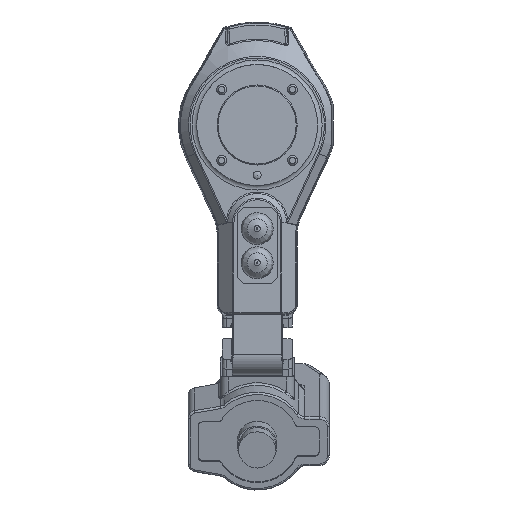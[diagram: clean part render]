
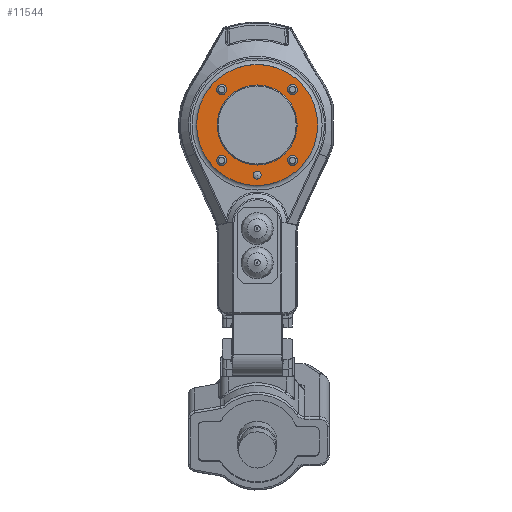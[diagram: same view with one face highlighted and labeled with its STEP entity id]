
A CAD part, top view. The second image highlights one B-rep face of the part: STEP entity #11544.
In plain terms, the highlighted planar face has unit normal (0, 0, 1).
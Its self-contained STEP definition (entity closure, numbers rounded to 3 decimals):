
#11462=CARTESIAN_POINT('',(0.0,26.5,0.));
#11463=DIRECTION('',(0.0,0.0,-1.0));
#11464=DIRECTION('',(-1.0,0.0,0.0));
#11465=AXIS2_PLACEMENT_3D('',#11462,#11463,#11464);
#11466=PLANE('',#11465);
#11467=CARTESIAN_POINT('',(30.235,0.,0.));
#11468=VERTEX_POINT('',#11467);
#11469=CARTESIAN_POINT('',(0.0,0.0,0.));
#11470=DIRECTION('',(0.0,0.0,-1.0));
#11471=DIRECTION('',(-1.0,0.0,0.0));
#11472=AXIS2_PLACEMENT_3D('',#11469,#11470,#11471);
#11473=CIRCLE('',#11472,30.235);
#11474=EDGE_CURVE('',#11468,#11468,#11473,.T.);
#11475=ORIENTED_EDGE('',*,*,#11474,.F.);
#11476=EDGE_LOOP('',(#11475));
#11477=FACE_OUTER_BOUND('',#11476,.T.);
#11478=CARTESIAN_POINT('',(0.0,20.0,0.));
#11479=VERTEX_POINT('',#11478);
#11480=CARTESIAN_POINT('',(0.0,0.0,0.));
#11481=DIRECTION('',(0.0,0.0,1.0));
#11482=DIRECTION('',(0.0,1.0,0.0));
#11483=AXIS2_PLACEMENT_3D('',#11480,#11481,#11482);
#11484=CIRCLE('',#11483,20.0);
#11485=EDGE_CURVE('',#11479,#11479,#11484,.T.);
#11486=ORIENTED_EDGE('',*,*,#11485,.F.);
#11487=EDGE_LOOP('',(#11486));
#11488=FACE_BOUND('',#11487,.T.);
#11489=CARTESIAN_POINT('',(1.341,-26.484,0.));
#11490=VERTEX_POINT('',#11489);
#11491=CARTESIAN_POINT('',(0.0,-25.0,0.));
#11492=DIRECTION('',(0.0,0.0,1.0));
#11493=DIRECTION('',(-0.671,0.742,0.0));
#11494=AXIS2_PLACEMENT_3D('',#11491,#11492,#11493);
#11495=CIRCLE('',#11494,2.0);
#11496=EDGE_CURVE('',#11490,#11490,#11495,.T.);
#11497=ORIENTED_EDGE('',*,*,#11496,.F.);
#11498=EDGE_LOOP('',(#11497));
#11499=FACE_BOUND('',#11498,.T.);
#11500=CARTESIAN_POINT('',(18.027,15.202,0.));
#11501=VERTEX_POINT('',#11500);
#11502=CARTESIAN_POINT('',(17.678,17.678,0.));
#11503=DIRECTION('',(0.,0.,1.0));
#11504=DIRECTION('',(-0.14,0.99,0.));
#11505=AXIS2_PLACEMENT_3D('',#11502,#11503,#11504);
#11506=CIRCLE('',#11505,2.5);
#11507=EDGE_CURVE('',#11501,#11501,#11506,.T.);
#11508=ORIENTED_EDGE('',*,*,#11507,.F.);
#11509=EDGE_LOOP('',(#11508));
#11510=FACE_BOUND('',#11509,.T.);
#11511=CARTESIAN_POINT('',(15.202,-18.027,0.));
#11512=VERTEX_POINT('',#11511);
#11513=CARTESIAN_POINT('',(17.678,-17.678,0.));
#11514=DIRECTION('',(0.,0.,1.0));
#11515=DIRECTION('',(0.99,0.14,0.));
#11516=AXIS2_PLACEMENT_3D('',#11513,#11514,#11515);
#11517=CIRCLE('',#11516,2.5);
#11518=EDGE_CURVE('',#11512,#11512,#11517,.T.);
#11519=ORIENTED_EDGE('',*,*,#11518,.F.);
#11520=EDGE_LOOP('',(#11519));
#11521=FACE_BOUND('',#11520,.T.);
#11522=CARTESIAN_POINT('',(-18.027,-15.202,0.));
#11523=VERTEX_POINT('',#11522);
#11524=CARTESIAN_POINT('',(-17.678,-17.678,0.));
#11525=DIRECTION('',(0.,0.,1.0));
#11526=DIRECTION('',(0.14,-0.99,0.));
#11527=AXIS2_PLACEMENT_3D('',#11524,#11525,#11526);
#11528=CIRCLE('',#11527,2.5);
#11529=EDGE_CURVE('',#11523,#11523,#11528,.T.);
#11530=ORIENTED_EDGE('',*,*,#11529,.F.);
#11531=EDGE_LOOP('',(#11530));
#11532=FACE_BOUND('',#11531,.T.);
#11533=CARTESIAN_POINT('',(-15.202,18.027,0.));
#11534=VERTEX_POINT('',#11533);
#11535=CARTESIAN_POINT('',(-17.678,17.678,0.));
#11536=DIRECTION('',(0.,0.,1.0));
#11537=DIRECTION('',(-0.99,-0.14,0.));
#11538=AXIS2_PLACEMENT_3D('',#11535,#11536,#11537);
#11539=CIRCLE('',#11538,2.5);
#11540=EDGE_CURVE('',#11534,#11534,#11539,.T.);
#11541=ORIENTED_EDGE('',*,*,#11540,.F.);
#11542=EDGE_LOOP('',(#11541));
#11543=FACE_BOUND('',#11542,.T.);
#11544=ADVANCED_FACE('',(#11477,#11488,#11499,#11510,#11521,#11532,#11543),#11466,.F.);
